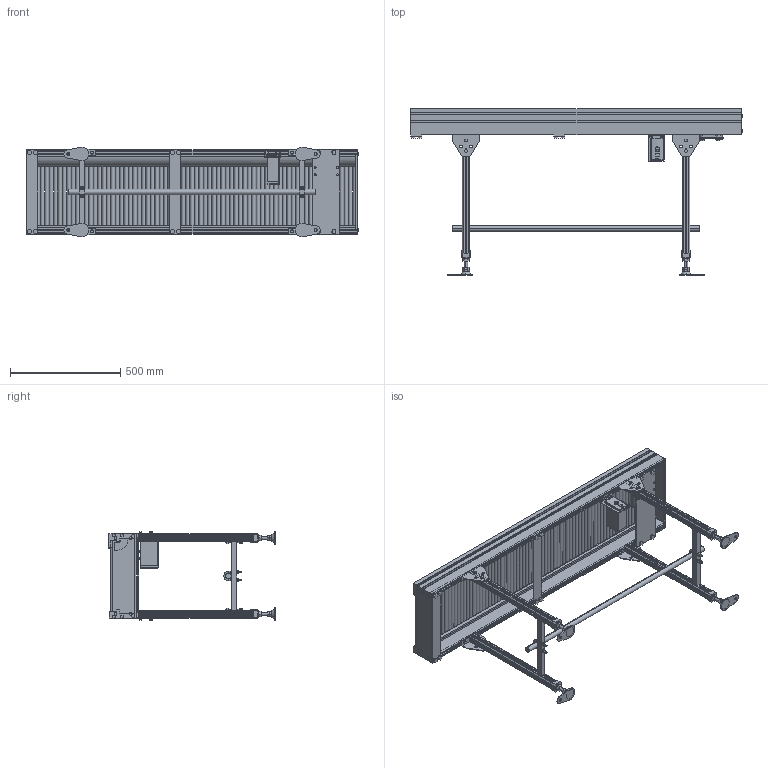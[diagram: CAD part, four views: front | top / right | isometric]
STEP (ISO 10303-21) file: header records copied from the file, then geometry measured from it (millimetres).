
FILE_DESCRIPTION (( 'STEP AP214' ), '1' );
FILE_NAME ('GM18-MD-303-300-150-IV-60.STEP', '2023-05-09T04:43:12', ( '' ), ( '' ), 'SwSTEP 2.0', 'SolidWorks 2017', '' );
FILE_SCHEMA (( 'AUTOMOTIVE_DESIGN' ));
Length unit declared in the file: millimetre
Products named in the file (1): GM18-MD-303-300-150-IV-60
Bounding box: 1508.6 x 757.9 x 407 mm (x, y, z)
Volume: 22817545.2 mm3; surface area: 4499932.3 mm2
Topology: 21 solids, 23 shells, 2623 faces, 7247 edges, 4621 vertices
Faces by surface type: plane 1819, cylinder 656, cone 108, bspline 18, torus 16, sphere 6
Entity records: 84359 total; most frequent: CARTESIAN_POINT 15497, ORIENTED_EDGE 14470, DIRECTION 14366, EDGE_CURVE 7235, LINE 5100, VECTOR 5100, AXIS2_PLACEMENT_3D 4633, VERTEX_POINT 4621
